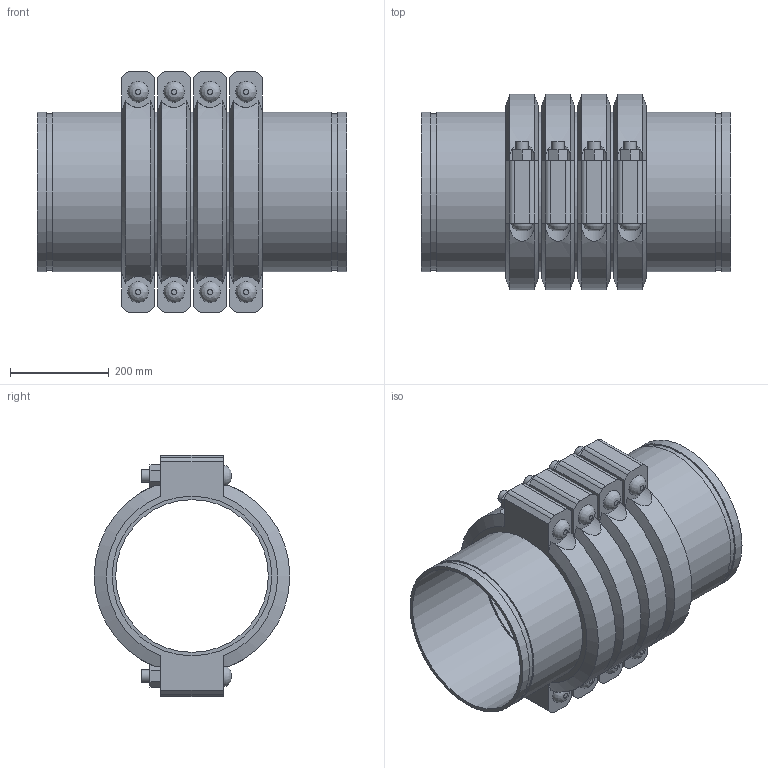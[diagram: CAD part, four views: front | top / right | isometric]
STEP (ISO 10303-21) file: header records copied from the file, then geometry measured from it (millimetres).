
FILE_DESCRIPTION(/* description */ ('VIC SS EXPANSION JOINT 4 COUPLINGS NEUTRAL STYLE 155P (OGS) (POTABLE WATER) ','CAx-IF Rec.Pracs.---Representation and Presentation of Product Manufacturing Information (PMI)---4.0---2014-10-13'),/* implementation_level */ '2;1');
FILE_NAME(/* name */ 'C:\Users\kkamble\AppData\Roaming\Autodesk\ApplicationPlugins\Victaulic.Temp\A324\Victaulic_SS_Expansion Joint_Neutral_4 Couplings_Style 155P (OGS)-Potable Water_4 Coup_Neut_12 (300).stp',/* time_stamp */ '2021-07-16T16:33:53+05:00',/* author */ ('kkamble'),/* organization */ ('Victaulic'),/* preprocessor_version */ 'ST-DEVELOPER v17.2',/* originating_system */ 'Autodesk Inventor 2019',/* authorisation */ '');
FILE_SCHEMA (('AP242_MANAGED_MODEL_BASED_3D_ENGINEERING_MIM_LF { 1 0 10303 442 1 1 4 }'));
Length unit declared in the file: inch
Products named in the file (4): 155P-12.0; Nipple-12.0; Nipple-12.0_1; 077-12.0
Assembly tree (9 placements, depth 2):
  155P-12.0
    Nipple-12.0  x2
    Nipple-12.0_1  x3
    077-12.0  x4
Bounding box: 628.65 x 397 x 488.95 mm (x, y, z)
Volume: 17638528.7 mm3; surface area: 2630460.1 mm2
Topology: 9 solids, 17 shells, 304 faces, 730 edges, 512 vertices
Faces by surface type: plane 174, cylinder 106, cone 16, bspline 8
Full cylindrical faces by diameter (mm): 25.4 x16, 27.432 x8, 309.677 x5, 314.96 x4, 318.287 x10, 323.85 x23
Entity records: 3041 total; most frequent: CARTESIAN_POINT 657, DIRECTION 473, ORIENTED_EDGE 410, EDGE_CURVE 205, AXIS2_PLACEMENT_3D 192, VERTEX_POINT 146, EDGE_LOOP 111, CIRCLE 96
